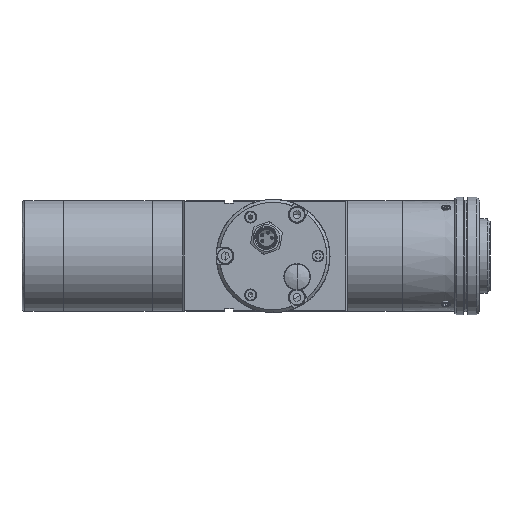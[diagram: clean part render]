
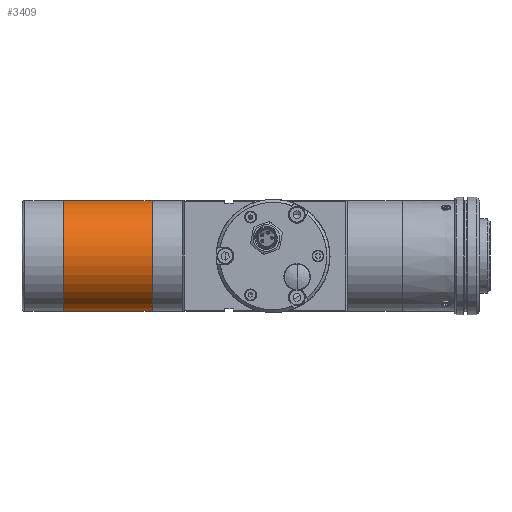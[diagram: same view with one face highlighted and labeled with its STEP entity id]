
A CAD part, front view. The second image highlights one B-rep face of the part: STEP entity #3409.
In plain terms, the highlighted face is a revolution surface.
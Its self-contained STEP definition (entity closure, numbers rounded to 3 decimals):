
#3409 = ADVANCED_FACE('',(#3410),#3425,.T.);
#3410 = FACE_BOUND('',#3411,.T.);
#3411 = EDGE_LOOP('',(#3412,#3438,#3453,#3469));
#3412 = ORIENTED_EDGE('',*,*,#3413,.F.);
#3413 = EDGE_CURVE('',#3414,#3416,#3418,.T.);
#3414 = VERTEX_POINT('',#3415);
#3415 = CARTESIAN_POINT('',(146.662,0.,
    18.85));
#3416 = VERTEX_POINT('',#3417);
#3417 = CARTESIAN_POINT('',(146.662,0.,
    -18.85));
#3418 = SURFACE_CURVE('',#3419,(#3424),.PCURVE_S1.);
#3419 = CIRCLE('',#3420,18.85);
#3420 = AXIS2_PLACEMENT_3D('',#3421,#3422,#3423);
#3421 = CARTESIAN_POINT('',(146.662,0.,
    0.));
#3422 = DIRECTION('',(1.,0.,0.));
#3423 = DIRECTION('',(0.,0.,1.));
#3424 = PCURVE('',#3425,#3433);
#3425 = SURFACE_OF_REVOLUTION('',#3426,#3430);
#3426 = LINE('',#3427,#3428);
#3427 = CARTESIAN_POINT('',(176.856,0.,18.85));
#3428 = VECTOR('',#3429,1.);
#3429 = DIRECTION('',(-1.,0.,0.));
#3430 = AXIS1_PLACEMENT('',#3431,#3432);
#3431 = CARTESIAN_POINT('',(1.222,0.,0.));
#3432 = DIRECTION('',(1.,0.,0.));
#3433 = DEFINITIONAL_REPRESENTATION('',(#3434),#3437);
#3434 = B_SPLINE_CURVE_WITH_KNOTS('',1,(#3435,#3436),.UNSPECIFIED.,.F.,
  .F.,(2,2),(0.,3.142),
  .PIECEWISE_BEZIER_KNOTS.);
#3435 = CARTESIAN_POINT('',(0.,30.194));
#3436 = CARTESIAN_POINT('',(3.142,30.194));
#3437 = ( GEOMETRIC_REPRESENTATION_CONTEXT(2) 
PARAMETRIC_REPRESENTATION_CONTEXT() REPRESENTATION_CONTEXT('',''
  ) );
#3438 = ORIENTED_EDGE('',*,*,#3439,.F.);
#3439 = EDGE_CURVE('',#3440,#3414,#3442,.T.);
#3440 = VERTEX_POINT('',#3441);
#3441 = CARTESIAN_POINT('',(176.856,0.,
    18.85));
#3442 = SURFACE_CURVE('',#3443,(#3447),.PCURVE_S1.);
#3443 = LINE('',#3444,#3445);
#3444 = CARTESIAN_POINT('',(176.856,0.,18.85));
#3445 = VECTOR('',#3446,1.);
#3446 = DIRECTION('',(-1.,0.,0.));
#3447 = PCURVE('',#3425,#3448);
#3448 = DEFINITIONAL_REPRESENTATION('',(#3449),#3452);
#3449 = B_SPLINE_CURVE_WITH_KNOTS('',1,(#3450,#3451),.UNSPECIFIED.,.F.,
  .F.,(2,2),(0.,30.194),.PIECEWISE_BEZIER_KNOTS.);
#3450 = CARTESIAN_POINT('',(0.,0.));
#3451 = CARTESIAN_POINT('',(0.,30.194));
#3452 = ( GEOMETRIC_REPRESENTATION_CONTEXT(2) 
PARAMETRIC_REPRESENTATION_CONTEXT() REPRESENTATION_CONTEXT('',''
  ) );
#3453 = ORIENTED_EDGE('',*,*,#3454,.F.);
#3454 = EDGE_CURVE('',#3455,#3440,#3457,.T.);
#3455 = VERTEX_POINT('',#3456);
#3456 = CARTESIAN_POINT('',(176.856,0.,
    -18.85));
#3457 = SURFACE_CURVE('',#3458,(#3463),.PCURVE_S1.);
#3458 = CIRCLE('',#3459,18.85);
#3459 = AXIS2_PLACEMENT_3D('',#3460,#3461,#3462);
#3460 = CARTESIAN_POINT('',(176.856,0.,
    0.));
#3461 = DIRECTION('',(-1.,0.,0.));
#3462 = DIRECTION('',(0.,0.,-1.));
#3463 = PCURVE('',#3425,#3464);
#3464 = DEFINITIONAL_REPRESENTATION('',(#3465),#3468);
#3465 = B_SPLINE_CURVE_WITH_KNOTS('',1,(#3466,#3467),.UNSPECIFIED.,.F.,
  .F.,(2,2),(0.,3.142),.PIECEWISE_BEZIER_KNOTS.);
#3466 = CARTESIAN_POINT('',(3.142,0.));
#3467 = CARTESIAN_POINT('',(0.,0.));
#3468 = ( GEOMETRIC_REPRESENTATION_CONTEXT(2) 
PARAMETRIC_REPRESENTATION_CONTEXT() REPRESENTATION_CONTEXT('',''
  ) );
#3469 = ORIENTED_EDGE('',*,*,#3470,.F.);
#3470 = EDGE_CURVE('',#3416,#3455,#3471,.T.);
#3471 = SURFACE_CURVE('',#3472,(#3476),.PCURVE_S1.);
#3472 = LINE('',#3473,#3474);
#3473 = CARTESIAN_POINT('',(146.662,0.,-18.85));
#3474 = VECTOR('',#3475,1.);
#3475 = DIRECTION('',(1.,0.,0.));
#3476 = PCURVE('',#3425,#3477);
#3477 = DEFINITIONAL_REPRESENTATION('',(#3478),#3481);
#3478 = B_SPLINE_CURVE_WITH_KNOTS('',1,(#3479,#3480),.UNSPECIFIED.,.F.,
  .F.,(2,2),(0.,30.194),.PIECEWISE_BEZIER_KNOTS.);
#3479 = CARTESIAN_POINT('',(3.142,30.194));
#3480 = CARTESIAN_POINT('',(3.142,0.));
#3481 = ( GEOMETRIC_REPRESENTATION_CONTEXT(2) 
PARAMETRIC_REPRESENTATION_CONTEXT() REPRESENTATION_CONTEXT('',''
  ) );
